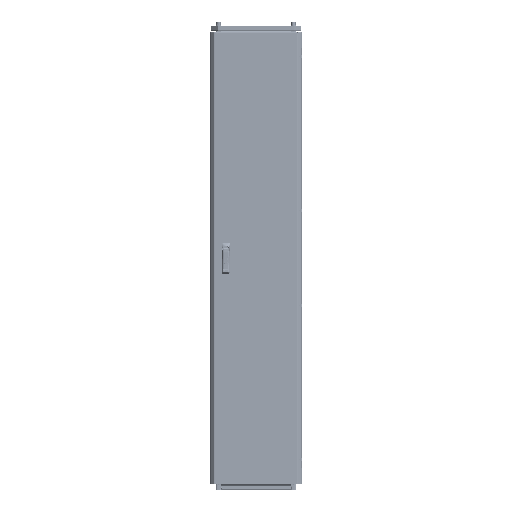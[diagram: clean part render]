
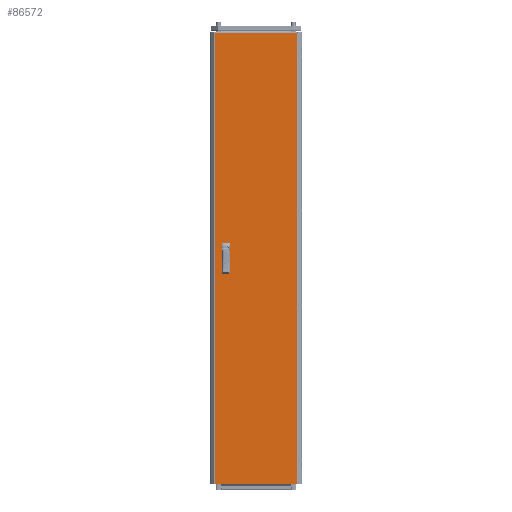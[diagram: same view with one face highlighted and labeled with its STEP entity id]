
A CAD part, top view. The second image highlights one B-rep face of the part: STEP entity #86572.
In plain terms, the highlighted planar face has unit normal (0, 0, 1).
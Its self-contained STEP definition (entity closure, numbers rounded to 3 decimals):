
#439 = DIRECTION ( 'NONE',  ( 0., -1., 0. ) ) ;
#3347 = CARTESIAN_POINT ( 'NONE',  ( -117.5, -12.5, 0. ) ) ;
#5267 = DIRECTION ( 'NONE',  ( 0., 1., 0. ) ) ;
#8841 = VECTOR ( 'NONE', #16119, 1000. ) ;
#9604 = EDGE_CURVE ( 'NONE', #120574, #118863, #195965, .T. ) ;
#10106 = EDGE_CURVE ( 'NONE', #91506, #124403, #96123, .T. ) ;
#10898 = DIRECTION ( 'NONE',  ( 0., 0., -1. ) ) ;
#11749 = DIRECTION ( 'NONE',  ( 0., -1., 0. ) ) ;
#16119 = DIRECTION ( 'NONE',  ( -1., 0., 0. ) ) ;
#17500 = VECTOR ( 'NONE', #439, 1000. ) ;
#19137 = EDGE_LOOP ( 'NONE', ( #215396, #111668, #50873, #41771 ) ) ;
#20604 = FACE_BOUND ( 'NONE', #224498, .T. ) ;
#21902 = VERTEX_POINT ( 'NONE', #3347 ) ;
#28564 = LINE ( 'NONE', #139649, #43948 ) ;
#32004 = LINE ( 'NONE', #104840, #216643 ) ;
#32327 = CARTESIAN_POINT ( 'NONE',  ( -177.875, -969.5, 0. ) ) ;
#38645 = CARTESIAN_POINT ( 'NONE',  ( -142.5, -62.5, 0. ) ) ;
#40034 = EDGE_LOOP ( 'NONE', ( #217658, #57196, #216121, #151868 ) ) ;
#41771 = ORIENTED_EDGE ( 'NONE', *, *, #9604, .T. ) ;
#43948 = VECTOR ( 'NONE', #175445, 1000. ) ;
#47107 = CARTESIAN_POINT ( 'NONE',  ( 177.875, -969.5, 0. ) ) ;
#50873 = ORIENTED_EDGE ( 'NONE', *, *, #96522, .T. ) ;
#55111 = CARTESIAN_POINT ( 'NONE',  ( 177.875, -969.5, 0. ) ) ;
#55302 = EDGE_CURVE ( 'NONE', #65051, #130457, #108942, .T. ) ;
#57196 = ORIENTED_EDGE ( 'NONE', *, *, #199022, .F. ) ;
#60544 = ORIENTED_EDGE ( 'NONE', *, *, #10106, .F. ) ;
#65051 = VERTEX_POINT ( 'NONE', #139768 ) ;
#65061 = ORIENTED_EDGE ( 'NONE', *, *, #107322, .F. ) ;
#68685 = LINE ( 'NONE', #214429, #8841 ) ;
#71479 = LINE ( 'NONE', #142025, #123690 ) ;
#72201 = LINE ( 'NONE', #38645, #17500 ) ;
#72652 = DIRECTION ( 'NONE',  ( -1., 0., 0. ) ) ;
#77939 = CARTESIAN_POINT ( 'NONE',  ( -142.5, 62.5, 0. ) ) ;
#78867 = VECTOR ( 'NONE', #222823, 1000. ) ;
#79050 = CARTESIAN_POINT ( 'NONE',  ( 0., 0., 0. ) ) ;
#80522 = CARTESIAN_POINT ( 'NONE',  ( -142.5, 12.5, 0. ) ) ;
#80553 = LINE ( 'NONE', #47107, #146498 ) ;
#81932 = DIRECTION ( 'NONE',  ( 0., -1., 0. ) ) ;
#86572 = ADVANCED_FACE ( 'NONE', ( #20604, #93441, #185390 ), #112531, .F. ) ;
#91506 = VERTEX_POINT ( 'NONE', #187031 ) ;
#93441 = FACE_BOUND ( 'NONE', #40034, .T. ) ;
#93447 = AXIS2_PLACEMENT_3D ( 'NONE', #79050, #10898, #229430 ) ;
#96123 = LINE ( 'NONE', #114070, #78867 ) ;
#96522 = EDGE_CURVE ( 'NONE', #204472, #120574, #193001, .T. ) ;
#104030 = VERTEX_POINT ( 'NONE', #110422 ) ;
#104840 = CARTESIAN_POINT ( 'NONE',  ( -142.5, 12.5, 0. ) ) ;
#107322 = EDGE_CURVE ( 'NONE', #213588, #91506, #177785, .T. ) ;
#108942 = LINE ( 'NONE', #218876, #124112 ) ;
#110264 = VECTOR ( 'NONE', #216034, 1000. ) ;
#110422 = CARTESIAN_POINT ( 'NONE',  ( 177.875, 969.5, 0. ) ) ;
#110625 = EDGE_CURVE ( 'NONE', #138746, #65051, #72201, .T. ) ;
#111668 = ORIENTED_EDGE ( 'NONE', *, *, #182772, .T. ) ;
#112531 = PLANE ( 'NONE',  #93447 ) ;
#112728 = CARTESIAN_POINT ( 'NONE',  ( -142.5, -12.5, 0. ) ) ;
#114070 = CARTESIAN_POINT ( 'NONE',  ( -117.5, 12.5, 0. ) ) ;
#116141 = ORIENTED_EDGE ( 'NONE', *, *, #142721, .F. ) ;
#118863 = VERTEX_POINT ( 'NONE', #55111 ) ;
#120574 = VERTEX_POINT ( 'NONE', #137397 ) ;
#121122 = DIRECTION ( 'NONE',  ( 0., 1., 0. ) ) ;
#123690 = VECTOR ( 'NONE', #72652, 1000. ) ;
#124112 = VECTOR ( 'NONE', #221234, 1000. ) ;
#124403 = VERTEX_POINT ( 'NONE', #146236 ) ;
#130457 = VERTEX_POINT ( 'NONE', #194420 ) ;
#131149 = EDGE_CURVE ( 'NONE', #124403, #182334, #68685, .T. ) ;
#137397 = CARTESIAN_POINT ( 'NONE',  ( -177.875, -969.5, 0. ) ) ;
#138746 = VERTEX_POINT ( 'NONE', #112728 ) ;
#139649 = CARTESIAN_POINT ( 'NONE',  ( -177.875, 969.5, 0. ) ) ;
#139768 = CARTESIAN_POINT ( 'NONE',  ( -142.5, -62.5, 0. ) ) ;
#142025 = CARTESIAN_POINT ( 'NONE',  ( -142.5, -12.5, 0. ) ) ;
#142721 = EDGE_CURVE ( 'NONE', #182334, #213588, #32004, .T. ) ;
#146236 = CARTESIAN_POINT ( 'NONE',  ( -117.5, 62.5, 0. ) ) ;
#146498 = VECTOR ( 'NONE', #121122, 1000. ) ;
#151868 = ORIENTED_EDGE ( 'NONE', *, *, #110625, .F. ) ;
#157147 = CARTESIAN_POINT ( 'NONE',  ( -177.875, -969.5, 0. ) ) ;
#162292 = CARTESIAN_POINT ( 'NONE',  ( -142.5, 12.5, 0. ) ) ;
#167666 = EDGE_CURVE ( 'NONE', #21902, #138746, #71479, .T. ) ;
#168908 = LINE ( 'NONE', #204749, #224872 ) ;
#175445 = DIRECTION ( 'NONE',  ( -1., 0., 0. ) ) ;
#177785 = LINE ( 'NONE', #162292, #110264 ) ;
#178038 = DIRECTION ( 'NONE',  ( 1., 0., 0. ) ) ;
#182334 = VERTEX_POINT ( 'NONE', #77939 ) ;
#182772 = EDGE_CURVE ( 'NONE', #104030, #204472, #28564, .T. ) ;
#185390 = FACE_OUTER_BOUND ( 'NONE', #19137, .T. ) ;
#187031 = CARTESIAN_POINT ( 'NONE',  ( -117.5, 12.5, 0. ) ) ;
#187155 = CARTESIAN_POINT ( 'NONE',  ( -177.875, 969.5, 0. ) ) ;
#189371 = VECTOR ( 'NONE', #178038, 1000. ) ;
#193001 = LINE ( 'NONE', #157147, #225220 ) ;
#194420 = CARTESIAN_POINT ( 'NONE',  ( -117.5, -62.5, 0. ) ) ;
#195965 = LINE ( 'NONE', #32327, #189371 ) ;
#199022 = EDGE_CURVE ( 'NONE', #130457, #21902, #168908, .T. ) ;
#204472 = VERTEX_POINT ( 'NONE', #187155 ) ;
#204749 = CARTESIAN_POINT ( 'NONE',  ( -117.5, -62.5, 0. ) ) ;
#206291 = ORIENTED_EDGE ( 'NONE', *, *, #131149, .F. ) ;
#213588 = VERTEX_POINT ( 'NONE', #80522 ) ;
#214429 = CARTESIAN_POINT ( 'NONE',  ( -142.5, 62.5, 0. ) ) ;
#215396 = ORIENTED_EDGE ( 'NONE', *, *, #219373, .T. ) ;
#216034 = DIRECTION ( 'NONE',  ( 1., 0., 0. ) ) ;
#216121 = ORIENTED_EDGE ( 'NONE', *, *, #55302, .F. ) ;
#216643 = VECTOR ( 'NONE', #11749, 1000. ) ;
#217658 = ORIENTED_EDGE ( 'NONE', *, *, #167666, .F. ) ;
#218876 = CARTESIAN_POINT ( 'NONE',  ( -142.5, -62.5, 0. ) ) ;
#219373 = EDGE_CURVE ( 'NONE', #118863, #104030, #80553, .T. ) ;
#221234 = DIRECTION ( 'NONE',  ( 1., 0., 0. ) ) ;
#222823 = DIRECTION ( 'NONE',  ( 0., 1., 0. ) ) ;
#224498 = EDGE_LOOP ( 'NONE', ( #206291, #60544, #65061, #116141 ) ) ;
#224872 = VECTOR ( 'NONE', #5267, 1000. ) ;
#225220 = VECTOR ( 'NONE', #81932, 1000. ) ;
#229430 = DIRECTION ( 'NONE',  ( -1., 0., 0. ) ) ;
